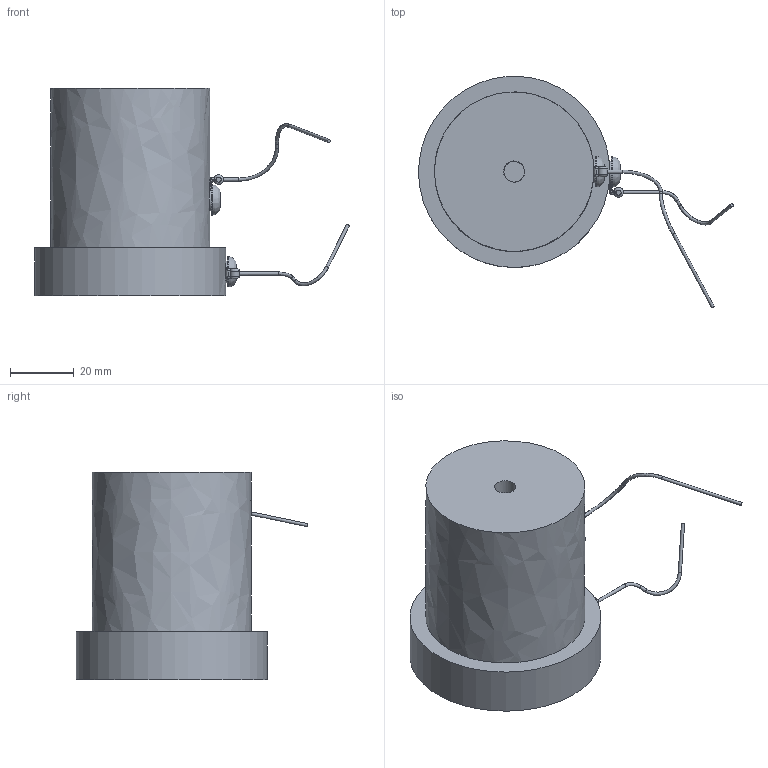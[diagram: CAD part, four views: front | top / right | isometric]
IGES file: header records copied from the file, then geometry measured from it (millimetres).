
Global section: file name: 04.50; native system: Autodesk Inventor 2014; preprocessor: unknown; author: APto; date: 20150402.092136; units: millimetre
Bounding box: 98.76 x 72.62 x 65 mm (x, y, z)
Volume: 139778 mm3; surface area: 24521.9 mm2
Topology: 9 solids, 9 shells, 126 faces, 305 edges, 195 vertices
Faces by surface type: bspline 126
